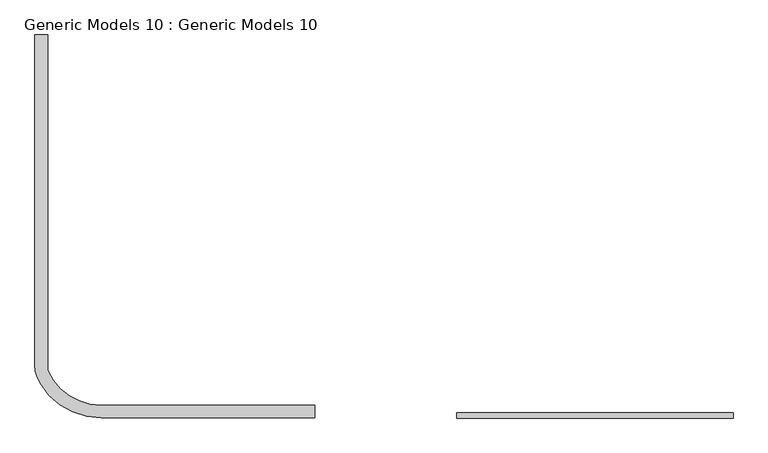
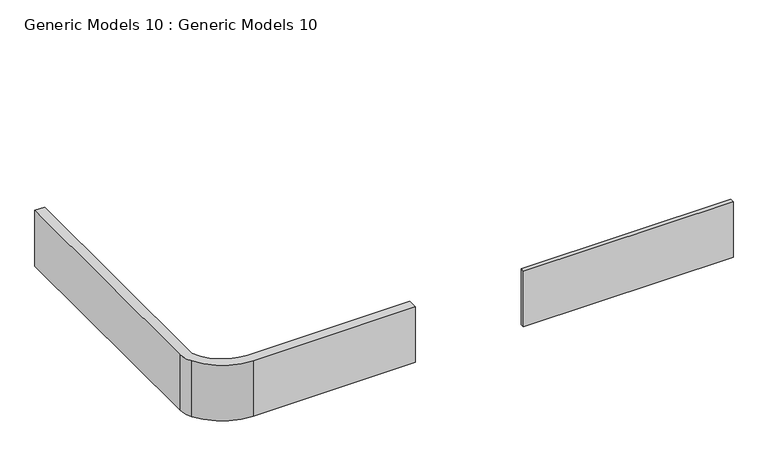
"""IFC4 building model written with IfcOpenShell, lengths in millimetres: proxy geometry, Generic Models 10 : Generic Models 10."""

from ifc_helpers import new_model, si_unit, point, frame, frame_2d, origin, place, context, project, spatial, polyline, circle_curve, trimmed, segment, composite_curve, outline, extrude, source, transform, mapped, element, save


def generic_models_10_generic_models_10_2bd21c6c(model_context):
    return source(origin(), model_context, "Body", "SweptSolid", [
        extrude(outline(polyline([(99402.9186373, 12713.6840743), (98319.1043164, 12713.6840743), (98319.1043164, 12734.5259381), (99402.9186373, 12734.5259381), (99402.9186373, 12713.6840743)])), frame((0.0, 0.0, 2557.4202247), z_axis=(0.0, 0.0, 1.0), x_axis=(1.0, 0.0, 0.0)), (0.0, 0.0, 1.0), 303.5960181),
        extrude(outline(composite_curve([segment(polyline([(96663.359081, 14217.0304058), (96713.359081, 14217.0304058), (96713.359081, 12900.7131458)]), True, "CONTINUOUS"), segment(trimmed(circle_curve(frame_2d((96923.357081, 12994.5259381)), 230.0), [point((96713.359081, 12900.7131458))], [point((96923.357081, 12764.5259381))], True, "CARTESIAN"), True, "CONTINUOUS"), segment(polyline([(96923.357081, 12764.5259381), (97761.5820716, 12764.5259381), (97761.5820716, 12714.5259381), (96923.357081, 12714.5259381)]), True, "CONTINUOUS"), segment(trimmed(circle_curve(frame_2d((96923.357081, 12994.5259381)), 280.0), [point((96923.357081, 12714.5259381))], [point((96683.6212357, 12849.865216))], False, "CARTESIAN"), True, "CONTINUOUS"), segment(trimmed(circle_curve(frame_2d((96804.2636489, 12922.6629179)), 140.9045679), [point((96683.6212357, 12849.865216))], [point((96663.359081, 12922.6629179))], False, "CARTESIAN"), True, "CONTINUOUS"), segment(polyline([(96663.359081, 12922.6629179), (96663.359081, 14217.0304058)]), True, "CONTINUOUS")], self_intersect=False)), frame((0.0, 0.0, 2557.4202247), z_axis=(0.0, 0.0, 1.0), x_axis=(1.0, 0.0, 0.0)), (0.0, 0.0, 1.0), 303.5960181),
    ])


if __name__ == "__main__":
    model = new_model("IFC4")
    model_context = context("Model", 3, world=origin())
    ifc_project = project(units=[si_unit("LENGTHUNIT", "METRE", prefix="MILLI")], contexts=[model_context])
    site = spatial("IfcSite", under=ifc_project)
    building = spatial("IfcBuilding", under=site)
    placement = place(None, origin())
    generic_models_10_generic_models_10_shape = generic_models_10_generic_models_10_2bd21c6c(model_context)
    element("IfcBuildingElementProxy", 1, Name="Generic Models 10 : Generic Models 10", ObjectType="Generic Models 10 : Generic Models 10", at=placement, inside=building, context=model_context, shape_type="MappedRepresentation", body=[
        mapped(generic_models_10_generic_models_10_shape, transform((0.0, 0.0, 0.0), x_axis=(1.0, 0.0, 0.0), y_axis=(0.0, 1.0, 0.0), z_axis=(0.0, 0.0, 1.0))),
    ])
    save(model, "model.ifc")
